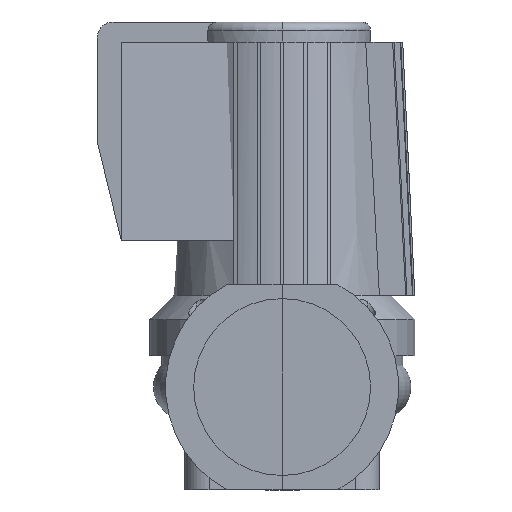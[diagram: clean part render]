
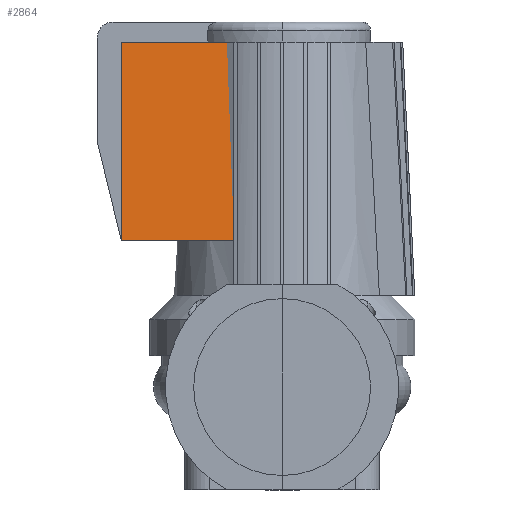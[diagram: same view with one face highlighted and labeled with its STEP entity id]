
A CAD part, left-side view. The second image highlights one B-rep face of the part: STEP entity #2864.
In plain terms, the highlighted planar face has unit normal (-0.997, 0, 0.081).
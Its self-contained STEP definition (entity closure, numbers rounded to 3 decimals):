
#249=PLANE('',#3119);
#406=FACE_OUTER_BOUND('',#590,.T.);
#590=EDGE_LOOP('',(#2420,#2421,#2422,#2423));
#744=LINE('',#6191,#953);
#756=LINE('',#6215,#965);
#761=LINE('',#6225,#970);
#762=LINE('',#6226,#971);
#953=VECTOR('',#3640,304.8);
#965=VECTOR('',#3656,304.8);
#970=VECTOR('',#3665,304.8);
#971=VECTOR('',#3666,304.8);
#1341=VERTEX_POINT('',#6188);
#1342=VERTEX_POINT('',#6190);
#1352=VERTEX_POINT('',#6214);
#1355=VERTEX_POINT('',#6224);
#1709=EDGE_CURVE('',#1342,#1341,#744,.T.);
#1721=EDGE_CURVE('',#1352,#1342,#756,.T.);
#1726=EDGE_CURVE('',#1355,#1341,#761,.T.);
#1727=EDGE_CURVE('',#1352,#1355,#762,.T.);
#2420=ORIENTED_EDGE('',*,*,#1726,.F.);
#2421=ORIENTED_EDGE('',*,*,#1727,.F.);
#2422=ORIENTED_EDGE('',*,*,#1721,.T.);
#2423=ORIENTED_EDGE('',*,*,#1709,.T.);
#2864=ADVANCED_FACE('',(#406),#249,.T.);
#3119=AXIS2_PLACEMENT_3D('',#6223,#3663,#3664);
#3640=DIRECTION('',(0.,1.,0.));
#3656=DIRECTION('',(0.081,0.,0.997));
#3663=DIRECTION('center_axis',(-0.997,0.,0.081));
#3664=DIRECTION('ref_axis',(0.,1.,0.));
#3665=DIRECTION('',(0.081,0.,0.997));
#3666=DIRECTION('',(0.,1.,0.));
#6188=CARTESIAN_POINT('',(29320.25,-35881.239,214.543));
#6190=CARTESIAN_POINT('',(29320.25,-35951.239,214.543));
#6191=CARTESIAN_POINT('',(29320.25,-35951.239,214.543));
#6214=CARTESIAN_POINT('',(29310.25,-35951.239,90.967));
#6215=CARTESIAN_POINT('',(29310.25,-35951.239,90.967));
#6223=CARTESIAN_POINT('Origin',(29320.25,-35981.239,214.543));
#6224=CARTESIAN_POINT('',(29310.25,-35881.239,90.967));
#6225=CARTESIAN_POINT('',(29310.25,-35881.239,90.967));
#6226=CARTESIAN_POINT('',(29310.25,-35951.239,90.967));
